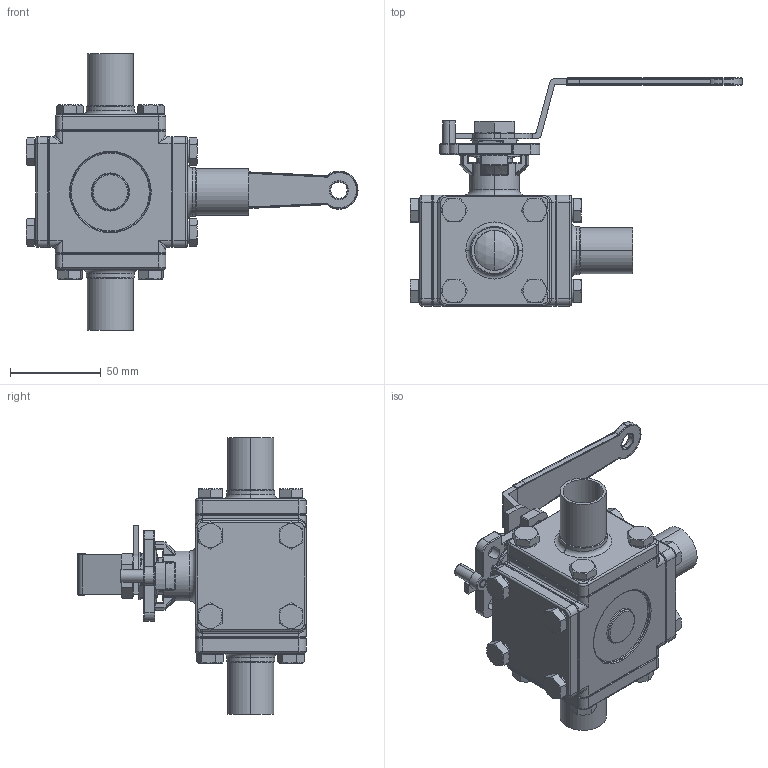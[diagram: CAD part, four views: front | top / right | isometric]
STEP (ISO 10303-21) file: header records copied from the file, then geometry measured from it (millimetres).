
FILE_DESCRIPTION (( 'STEP AP203' ), '1' );
FILE_NAME ('E93WWW-61.0.STEP', '2019-07-02T02:20:58', ( '' ), ( '' ), 'SwSTEP 2.0', 'SolidWorks 2014', '' );
FILE_SCHEMA (( 'CONFIG_CONTROL_DESIGN' ));
Length unit declared in the file: millimetre
Products named in the file (23): E93WWW-61.0; 10.BEVEL WASHER1.0; 9.RING1.0; 17.LOCKING TAB1.0; 19.3WAY-CAP1.0; 22.SEAT-R-1.0; 15.SPRING WASHER1.0; 13.STEM1.0; 14.HANDLE1.0; 3.3WAY-BALL-1.0-L; 12.3WAY-NUT1.0; 5.GASKET1.0; 11.STOP PIN0.5-1.0; 1.3WAY-BODY1.0; 18.THINNER NUT1.0; 7.O-RING0.5-1.0; 8.STEM PACKING1.0; 20.SEAT BACK1.0; 4.SEAT1-1.0; 22.SEAT-L-1.0; 6.THRUST WASHER1.0; 16.BOLT1.0; 2.3WAY-CAP-W-1.0
Assembly tree (57 placements, depth 2):
  E93WWW-61.0
    1.3WAY-BODY1.0
    9.RING1.0
    11.STOP PIN0.5-1.0
    13.STEM1.0
    6.THRUST WASHER1.0
    7.O-RING0.5-1.0
    8.STEM PACKING1.0
    3.3WAY-BALL-1.0-L
    10.BEVEL WASHER1.0  x2
    17.LOCKING TAB1.0
    18.THINNER NUT1.0
    22.SEAT-L-1.0
    22.SEAT-R-1.0
    4.SEAT1-1.0  x2
    20.SEAT BACK1.0
    5.GASKET1.0  x2
    19.3WAY-CAP1.0
    15.SPRING WASHER1.0  x16
    16.BOLT1.0  x16
    14.HANDLE1.0
    12.3WAY-NUT1.0
    2.3WAY-CAP-W-1.0  x3
Bounding box: 183 x 125.69 x 152.4 mm (x, y, z)
Volume: 420376.9 mm3; surface area: 179866.4 mm2
Topology: 58 solids, 58 shells, 1496 faces, 3370 edges, 1986 vertices
Faces by surface type: cylinder 560, plane 397, cone 234, torus 198, sphere 58, bspline 49
Entity records: 34273 total; most frequent: CARTESIAN_POINT 8097, DIRECTION 5254, ORIENTED_EDGE 4502, EDGE_CURVE 2251, AXIS2_PLACEMENT_3D 2227, VERTEX_POINT 1332, CIRCLE 1227, EDGE_LOOP 1095
